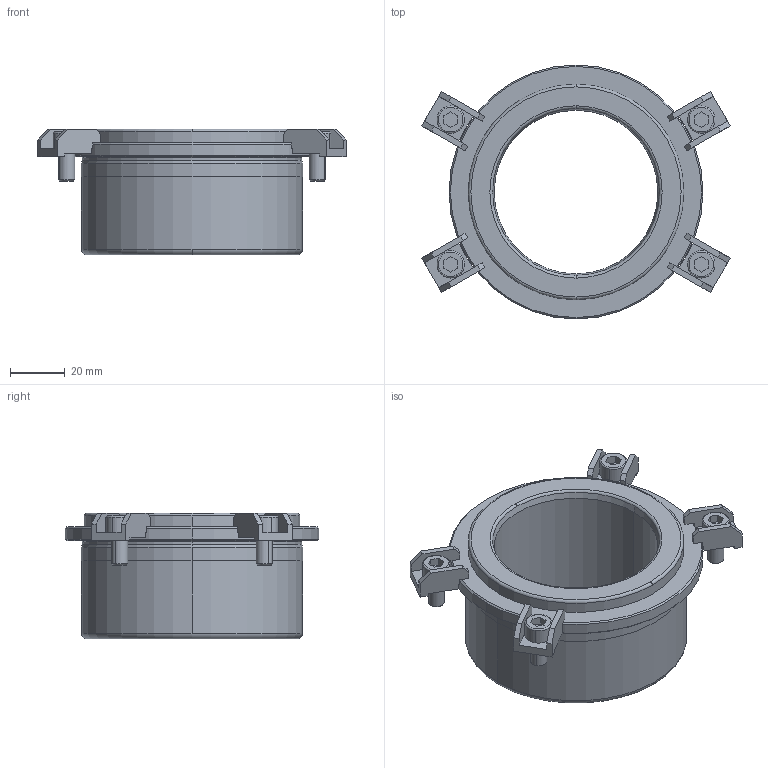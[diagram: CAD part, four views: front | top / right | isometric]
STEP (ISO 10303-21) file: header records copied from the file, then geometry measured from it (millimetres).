
FILE_DESCRIPTION((''),'2;1');
FILE_NAME('B42_048_036.stp','2008-11-04T14:27:33',(''),(''),'Mechanical Desktop 2009','Mechanical Desktop 2009',', , ');
FILE_SCHEMA(('CONFIG_CONTROL_DESIGN'));
Length unit declared in the file: millimetre
Products named in the file (2): Product; blmdl1
Assembly tree (1 placements, depth 2):
  Product
    blmdl1
Bounding box: 112.91 x 93 x 46 mm (x, y, z)
Volume: 119351.9 mm3; surface area: 34379.2 mm2
Topology: 9 solids, 9 shells, 233 faces, 598 edges, 394 vertices
Faces by surface type: plane 137, cylinder 48, cone 20, torus 16, bspline 12
Entity records: 7707 total; most frequent: CARTESIAN_POINT 1755, DIRECTION 1258, ORIENTED_EDGE 1196, EDGE_CURVE 598, AXIS2_PLACEMENT_3D 437, VERTEX_POINT 394, VECTOR 384, LINE 384
